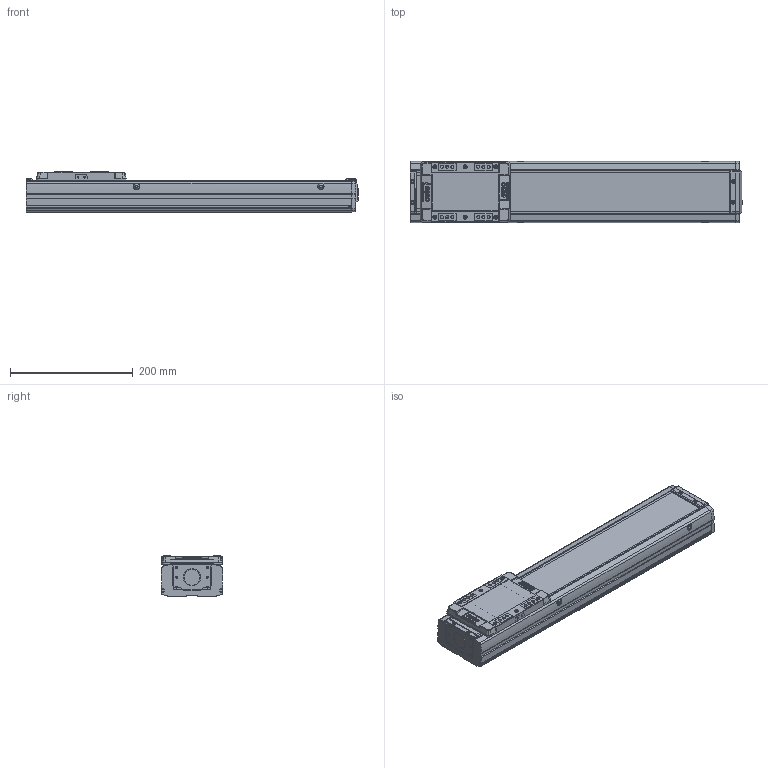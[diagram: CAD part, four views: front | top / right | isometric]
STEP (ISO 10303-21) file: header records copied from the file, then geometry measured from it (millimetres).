
FILE_DESCRIPTION(('STEP AP214'),'1');
FILE_NAME('Z:/Web/3D/SAN100/SAN100 양산용 (STEP)/SAN100ㅁㅁ-350.stp','2013-05-08T06:17:14',(' '),(' '),'Spatial InterOp 3D',' ',' ');
FILE_SCHEMA(('automotive_design'));
Length unit declared in the file: millimetre
Products named in the file (26): SUS COVER; SFX-SAN100; RRCV-SAN100; 스크루 : Round - M4.0 x 10.0; M3.0 x 6.0; 스크루 : Round - M3.0 x 6.0; FRBL-SAN100; SLBL-SAN100; SLCV-SAN100; 스크루 : Countersunk - M3.0 x 6.0; BASE; 스크루 : Round - M5.0 x 6.0
Bounding box: 540.5 x 100 x 66 mm (x, y, z)
Volume: 1543110.4 mm3; surface area: 396150.4 mm2
Topology: 26 solids, 27 shells, 1757 faces, 4610 edges, 2967 vertices
Faces by surface type: plane 878, cylinder 659, cone 154, sphere 36, torus 18, bspline 12
Entity records: 69243 total; most frequent: CARTESIAN_POINT 10370, DIRECTION 9645, ORIENTED_EDGE 9064, EDGE_CURVE 4532, AXIS2_PLACEMENT_3D 3423, VERTEX_POINT 2967, LINE 2799, VECTOR 2799
